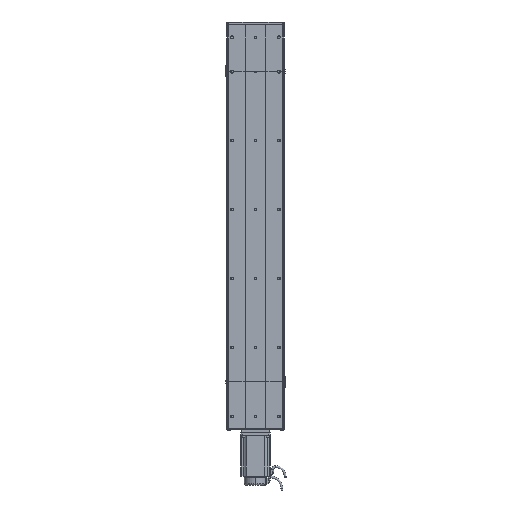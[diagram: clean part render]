
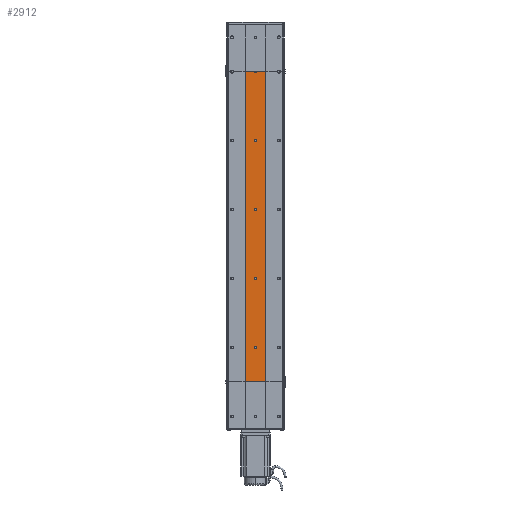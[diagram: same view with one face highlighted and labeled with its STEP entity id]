
A CAD part, front view. The second image highlights one B-rep face of the part: STEP entity #2912.
In plain terms, the highlighted planar face has unit normal (0, -1, 0).
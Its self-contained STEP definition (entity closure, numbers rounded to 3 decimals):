
#1350 = VERTEX_POINT ( 'NONE', #41340 ) ;
#1367 = VERTEX_POINT ( 'NONE', #41814 ) ;
#1392 = VERTEX_POINT ( 'NONE', #53898 ) ;
#1394 = EDGE_CURVE ( 'NONE', #1405, #1392, #53900, .T. ) ;
#1402 = EDGE_CURVE ( 'NONE', #1350, #1421, #42003, .T. ) ;
#1405 = VERTEX_POINT ( 'NONE', #42016 ) ;
#1410 = VERTEX_POINT ( 'NONE', #42139 ) ;
#1419 = VERTEX_POINT ( 'NONE', #42125 ) ;
#1420 = EDGE_CURVE ( 'NONE', #1419, #1367, #42090, .T. ) ;
#1421 = VERTEX_POINT ( 'NONE', #42108 ) ;
#1465 = VERTEX_POINT ( 'NONE', #42385 ) ;
#1470 = EDGE_CURVE ( 'NONE', #1410, #1465, #42365, .T. ) ;
#1611 = EDGE_CURVE ( 'NONE', #1636, #1637, #43239, .T. ) ;
#1636 = VERTEX_POINT ( 'NONE', #43538 ) ;
#1637 = VERTEX_POINT ( 'NONE', #43535 ) ;
#1796 = EDGE_CURVE ( 'NONE', #1855, #1419, #44610, .T. ) ;
#1855 = VERTEX_POINT ( 'NONE', #44964 ) ;
#1868 = VERTEX_POINT ( 'NONE', #44931 ) ;
#1871 = VERTEX_POINT ( 'NONE', #44955 ) ;
#1879 = EDGE_CURVE ( 'NONE', #1871, #1868, #45047, .T. ) ;
#2698 = VERTEX_POINT ( 'NONE', #54505 ) ;
#2701 = EDGE_CURVE ( 'NONE', #2698, #2703, #54595, .T. ) ;
#2703 = VERTEX_POINT ( 'NONE', #54591 ) ;
#2844 = ORIENTED_EDGE ( 'NONE', *, *, #1402, .F. ) ;
#2849 = ORIENTED_EDGE ( 'NONE', *, *, #1611, .F. ) ;
#2877 = EDGE_CURVE ( 'NONE', #1367, #1871, #54818, .T. ) ;
#2878 = ORIENTED_EDGE ( 'NONE', *, *, #2701, .F. ) ;
#2879 = ORIENTED_EDGE ( 'NONE', *, *, #2877, .T. ) ;
#2880 = ORIENTED_EDGE ( 'NONE', *, *, #2883, .T. ) ;
#2881 = ORIENTED_EDGE ( 'NONE', *, *, #2905, .F. ) ;
#2883 = EDGE_CURVE ( 'NONE', #2698, #1855, #54806, .T. ) ;
#2888 = ORIENTED_EDGE ( 'NONE', *, *, #1394, .F. ) ;
#2889 = ORIENTED_EDGE ( 'NONE', *, *, #2913, .F. ) ;
#2890 = ORIENTED_EDGE ( 'NONE', *, *, #2896, .F. ) ;
#2891 = EDGE_LOOP ( 'NONE', ( #2890, #2849 ) ) ;
#2892 = EDGE_CURVE ( 'NONE', #1465, #1410, #54810, .T. ) ;
#2893 = ORIENTED_EDGE ( 'NONE', *, *, #1470, .F. ) ;
#2894 = EDGE_LOOP ( 'NONE', ( #2895, #2897, #2879, #2898, #2881, #2878, #2880 ) ) ;
#2895 = ORIENTED_EDGE ( 'NONE', *, *, #1796, .T. ) ;
#2896 = EDGE_CURVE ( 'NONE', #1637, #1636, #54800, .T. ) ;
#2897 = ORIENTED_EDGE ( 'NONE', *, *, #1420, .T. ) ;
#2898 = ORIENTED_EDGE ( 'NONE', *, *, #1879, .T. ) ;
#2902 = ORIENTED_EDGE ( 'NONE', *, *, #2914, .F. ) ;
#2903 = EDGE_LOOP ( 'NONE', ( #2902, #2844 ) ) ;
#2905 = EDGE_CURVE ( 'NONE', #2703, #1868, #54843, .T. ) ;
#2906 = EDGE_LOOP ( 'NONE', ( #2909, #2893 ) ) ;
#2909 = ORIENTED_EDGE ( 'NONE', *, *, #2892, .F. ) ;
#2911 = EDGE_LOOP ( 'NONE', ( #2889, #2888 ) ) ;
#2912 = ADVANCED_FACE ( 'NONE', ( #54850, #54842, #54841, #54837, #54836 ), #54840, .F. ) ;
#2913 = EDGE_CURVE ( 'NONE', #1392, #1405, #54827, .T. ) ;
#2914 = EDGE_CURVE ( 'NONE', #1421, #1350, #54832, .T. ) ;
#41185 = DIRECTION ( 'NONE',  ( 0., 0., -1. ) ) ;
#41340 = CARTESIAN_POINT ( 'NONE',  ( 0., -32.5, 703. ) ) ;
#41814 = CARTESIAN_POINT ( 'NONE',  ( 0., -32.5, 897. ) ) ;
#41980 = DIRECTION ( 'NONE',  ( 0., 0., -1. ) ) ;
#41982 = DIRECTION ( 'NONE',  ( 0., -1., 0. ) ) ;
#41983 = CARTESIAN_POINT ( 'NONE',  ( 0., -32.5, 700. ) ) ;
#41984 = AXIS2_PLACEMENT_3D ( 'NONE', #41983, #41982, #41980 ) ;
#42003 = CIRCLE ( 'NONE', #41984, 3. ) ;
#42016 = CARTESIAN_POINT ( 'NONE',  ( 0., -32.5, 503. ) ) ;
#42072 = DIRECTION ( 'NONE',  ( 0., 0., 1. ) ) ;
#42074 = DIRECTION ( 'NONE',  ( 0., 1., 0. ) ) ;
#42076 = CARTESIAN_POINT ( 'NONE',  ( 0., -32.5, 900. ) ) ;
#42077 = AXIS2_PLACEMENT_3D ( 'NONE', #42076, #42074, #42072 ) ;
#42090 = CIRCLE ( 'NONE', #42077, 3. ) ;
#42108 = CARTESIAN_POINT ( 'NONE',  ( 0., -32.5, 697. ) ) ;
#42125 = CARTESIAN_POINT ( 'NONE',  ( 3., -32.5, 900. ) ) ;
#42139 = CARTESIAN_POINT ( 'NONE',  ( 0., -32.5, 303. ) ) ;
#42342 = DIRECTION ( 'NONE',  ( 0., 0., -1. ) ) ;
#42344 = DIRECTION ( 'NONE',  ( 0., -1., 0. ) ) ;
#42346 = CARTESIAN_POINT ( 'NONE',  ( 0., -32.5, 300. ) ) ;
#42354 = AXIS2_PLACEMENT_3D ( 'NONE', #42346, #42344, #42342 ) ;
#42365 = CIRCLE ( 'NONE', #42354, 3. ) ;
#42385 = CARTESIAN_POINT ( 'NONE',  ( 0., -32.5, 297. ) ) ;
#43239 = CIRCLE ( 'NONE', #43432, 3. ) ;
#43425 = DIRECTION ( 'NONE',  ( 0., 0., -1. ) ) ;
#43428 = DIRECTION ( 'NONE',  ( 0., -1., 0. ) ) ;
#43430 = CARTESIAN_POINT ( 'NONE',  ( 0., -32.5, 100. ) ) ;
#43432 = AXIS2_PLACEMENT_3D ( 'NONE', #43430, #43428, #43425 ) ;
#43535 = CARTESIAN_POINT ( 'NONE',  ( 0., -32.5, 97. ) ) ;
#43538 = CARTESIAN_POINT ( 'NONE',  ( 0., -32.5, 103. ) ) ;
#44605 = DIRECTION ( 'NONE',  ( -1., 0., 0. ) ) ;
#44606 = VECTOR ( 'NONE', #44605, 1000. ) ;
#44608 = CARTESIAN_POINT ( 'NONE',  ( -30., -32.5, 900. ) ) ;
#44610 = LINE ( 'NONE', #44608, #44606 ) ;
#44931 = CARTESIAN_POINT ( 'NONE',  ( -30., -32.5, 900. ) ) ;
#44955 = CARTESIAN_POINT ( 'NONE',  ( -3., -32.5, 900. ) ) ;
#44964 = CARTESIAN_POINT ( 'NONE',  ( 30., -32.5, 900. ) ) ;
#45037 = DIRECTION ( 'NONE',  ( -1., 0., 0. ) ) ;
#45038 = VECTOR ( 'NONE', #45037, 1000. ) ;
#45042 = CARTESIAN_POINT ( 'NONE',  ( -30., -32.5, 900. ) ) ;
#45047 = LINE ( 'NONE', #45042, #45038 ) ;
#53897 = DIRECTION ( 'NONE',  ( 0., -1., 0. ) ) ;
#53898 = CARTESIAN_POINT ( 'NONE',  ( 0., -32.5, 497. ) ) ;
#53899 = AXIS2_PLACEMENT_3D ( 'NONE', #53937, #53897, #41185 ) ;
#53900 = CIRCLE ( 'NONE', #53899, 3. ) ;
#53937 = CARTESIAN_POINT ( 'NONE',  ( 0., -32.5, 500. ) ) ;
#54505 = CARTESIAN_POINT ( 'NONE',  ( 30., -32.5, 0. ) ) ;
#54587 = DIRECTION ( 'NONE',  ( -1., 0., 0. ) ) ;
#54588 = VECTOR ( 'NONE', #54587, 1000. ) ;
#54589 = CARTESIAN_POINT ( 'NONE',  ( -30., -32.5, 0. ) ) ;
#54591 = CARTESIAN_POINT ( 'NONE',  ( -30., -32.5, 0. ) ) ;
#54595 = LINE ( 'NONE', #54589, #54588 ) ;
#54767 = AXIS2_PLACEMENT_3D ( 'NONE', #54803, #54802, #54801 ) ;
#54797 = DIRECTION ( 'NONE',  ( 0., 0., 1. ) ) ;
#54800 = CIRCLE ( 'NONE', #54846, 3. ) ;
#54801 = DIRECTION ( 'NONE',  ( 0., 0., 1. ) ) ;
#54802 = DIRECTION ( 'NONE',  ( 0., 1., 0. ) ) ;
#54803 = CARTESIAN_POINT ( 'NONE',  ( 0., -32.5, 900. ) ) ;
#54804 = VECTOR ( 'NONE', #54797, 1000. ) ;
#54805 = CARTESIAN_POINT ( 'NONE',  ( 30., -32.5, 0. ) ) ;
#54806 = LINE ( 'NONE', #54805, #54804 ) ;
#54807 = AXIS2_PLACEMENT_3D ( 'NONE', #54853, #54852, #54851 ) ;
#54809 = CARTESIAN_POINT ( 'NONE',  ( 0., -32.5, 100. ) ) ;
#54810 = CIRCLE ( 'NONE', #54807, 3. ) ;
#54818 = CIRCLE ( 'NONE', #54767, 3. ) ;
#54827 = CIRCLE ( 'NONE', #54882, 3. ) ;
#54829 = DIRECTION ( 'NONE',  ( 0., 0., 1. ) ) ;
#54832 = CIRCLE ( 'NONE', #54877, 3. ) ;
#54833 = DIRECTION ( 'NONE',  ( 0., 0., 1. ) ) ;
#54834 = VECTOR ( 'NONE', #54833, 1000. ) ;
#54835 = CARTESIAN_POINT ( 'NONE',  ( -30., -32.5, 0. ) ) ;
#54836 = FACE_OUTER_BOUND ( 'NONE', #2894, .T. ) ;
#54837 = FACE_BOUND ( 'NONE', #2891, .T. ) ;
#54838 = DIRECTION ( 'NONE',  ( 0., 1., 0. ) ) ;
#54840 = PLANE ( 'NONE',  #54854 ) ;
#54841 = FACE_BOUND ( 'NONE', #2906, .T. ) ;
#54842 = FACE_BOUND ( 'NONE', #2911, .T. ) ;
#54843 = LINE ( 'NONE', #54835, #54834 ) ;
#54844 = DIRECTION ( 'NONE',  ( 0., 0., -1. ) ) ;
#54845 = DIRECTION ( 'NONE',  ( 0., -1., 0. ) ) ;
#54846 = AXIS2_PLACEMENT_3D ( 'NONE', #54809, #54845, #54844 ) ;
#54848 = CARTESIAN_POINT ( 'NONE',  ( -30., -32.5, 0. ) ) ;
#54850 = FACE_BOUND ( 'NONE', #2903, .T. ) ;
#54851 = DIRECTION ( 'NONE',  ( 0., 0., -1. ) ) ;
#54852 = DIRECTION ( 'NONE',  ( 0., -1., 0. ) ) ;
#54853 = CARTESIAN_POINT ( 'NONE',  ( 0., -32.5, 300. ) ) ;
#54854 = AXIS2_PLACEMENT_3D ( 'NONE', #54848, #54838, #54829 ) ;
#54874 = DIRECTION ( 'NONE',  ( 0., 0., -1. ) ) ;
#54875 = DIRECTION ( 'NONE',  ( 0., -1., 0. ) ) ;
#54876 = CARTESIAN_POINT ( 'NONE',  ( 0., -32.5, 700. ) ) ;
#54877 = AXIS2_PLACEMENT_3D ( 'NONE', #54876, #54875, #54874 ) ;
#54879 = DIRECTION ( 'NONE',  ( 0., 0., -1. ) ) ;
#54880 = DIRECTION ( 'NONE',  ( 0., -1., 0. ) ) ;
#54881 = CARTESIAN_POINT ( 'NONE',  ( 0., -32.5, 500. ) ) ;
#54882 = AXIS2_PLACEMENT_3D ( 'NONE', #54881, #54880, #54879 ) ;
